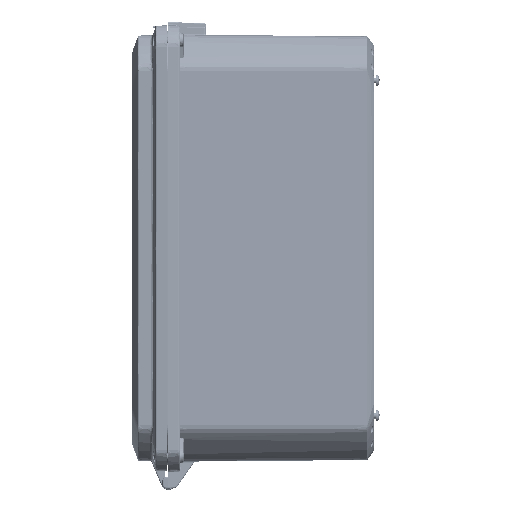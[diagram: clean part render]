
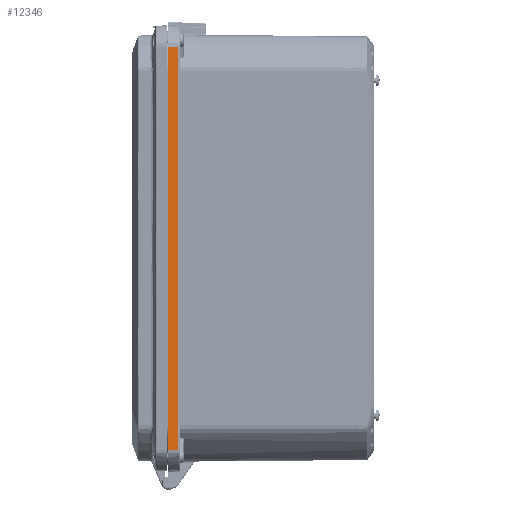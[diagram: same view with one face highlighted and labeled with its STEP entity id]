
A CAD part, left-side view. The second image highlights one B-rep face of the part: STEP entity #12346.
In plain terms, the highlighted planar face has unit normal (-0.999, -0.035, 0).
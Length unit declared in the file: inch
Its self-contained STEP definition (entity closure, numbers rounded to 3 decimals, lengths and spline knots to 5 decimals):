
#10701 = DIRECTION ( 'NONE',  ( 0.035, -0.999, 0. ) ) ;
#12346 = ADVANCED_FACE ( 'NONE', ( #122057 ), #195042, .T. ) ;
#19331 = VECTOR ( 'NONE', #184286, 39.37008 ) ;
#27856 = LINE ( 'NONE', #95143, #19331 ) ;
#34075 = LINE ( 'NONE', #57435, #219606 ) ;
#57435 = CARTESIAN_POINT ( 'NONE',  ( -8.62, 0., -6.89046 ) ) ;
#59420 = VERTEX_POINT ( 'NONE', #234498 ) ;
#69813 = CARTESIAN_POINT ( 'NONE',  ( -8.62, 0., 7.3 ) ) ;
#72001 = CARTESIAN_POINT ( 'NONE',  ( -8.62, 0., 6.89046 ) ) ;
#80364 = EDGE_CURVE ( 'NONE', #148287, #136917, #27856, .T. ) ;
#95143 = CARTESIAN_POINT ( 'NONE',  ( -8.60772, -0.35174, 6.89046 ) ) ;
#103745 = CARTESIAN_POINT ( 'NONE',  ( -8.62, 0., -6.89046 ) ) ;
#105713 = ORIENTED_EDGE ( 'NONE', *, *, #80364, .T. ) ;
#119838 = VECTOR ( 'NONE', #158968, 39.37008 ) ;
#122057 = FACE_OUTER_BOUND ( 'NONE', #287334, .T. ) ;
#125404 = EDGE_CURVE ( 'NONE', #201038, #148287, #34075, .T. ) ;
#131263 = VECTOR ( 'NONE', #137790, 39.37008 ) ;
#136917 = VERTEX_POINT ( 'NONE', #219230 ) ;
#137790 = DIRECTION ( 'NONE',  ( 0.035, -0.999, 0. ) ) ;
#144552 = EDGE_CURVE ( 'NONE', #59420, #136917, #228430, .T. ) ;
#148287 = VERTEX_POINT ( 'NONE', #218260 ) ;
#158968 = DIRECTION ( 'NONE',  ( 0., 0., 1. ) ) ;
#173115 = DIRECTION ( 'NONE',  ( -0.999, -0.035, 0. ) ) ;
#184286 = DIRECTION ( 'NONE',  ( 0., 0., 1. ) ) ;
#195042 = PLANE ( 'NONE',  #220866 ) ;
#201038 = VERTEX_POINT ( 'NONE', #103745 ) ;
#211255 = CARTESIAN_POINT ( 'NONE',  ( -8.62, 0., 7.3 ) ) ;
#213597 = ORIENTED_EDGE ( 'NONE', *, *, #263065, .F. ) ;
#218260 = CARTESIAN_POINT ( 'NONE',  ( -8.60772, -0.35174, -6.89046 ) ) ;
#219230 = CARTESIAN_POINT ( 'NONE',  ( -8.60772, -0.35174, 6.89046 ) ) ;
#219606 = VECTOR ( 'NONE', #10701, 39.37008 ) ;
#220866 = AXIS2_PLACEMENT_3D ( 'NONE', #211255, #173115, #278506 ) ;
#228430 = LINE ( 'NONE', #72001, #131263 ) ;
#234498 = CARTESIAN_POINT ( 'NONE',  ( -8.62, 0., 6.89046 ) ) ;
#241711 = ORIENTED_EDGE ( 'NONE', *, *, #144552, .F. ) ;
#246768 = LINE ( 'NONE', #69813, #119838 ) ;
#263065 = EDGE_CURVE ( 'NONE', #201038, #59420, #246768, .T. ) ;
#278506 = DIRECTION ( 'NONE',  ( 0.035, -0.999, 0. ) ) ;
#282623 = ORIENTED_EDGE ( 'NONE', *, *, #125404, .T. ) ;
#287334 = EDGE_LOOP ( 'NONE', ( #105713, #241711, #213597, #282623 ) ) ;
